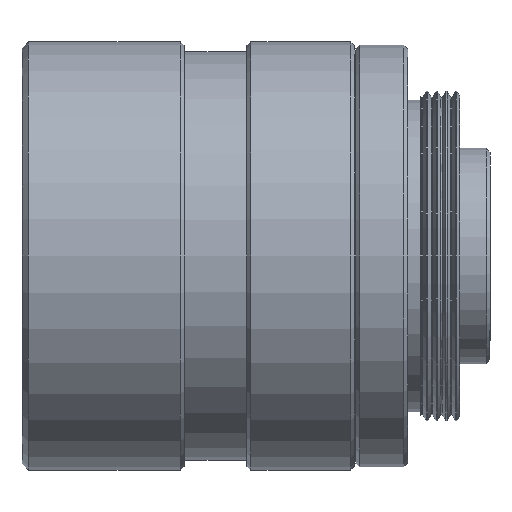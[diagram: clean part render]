
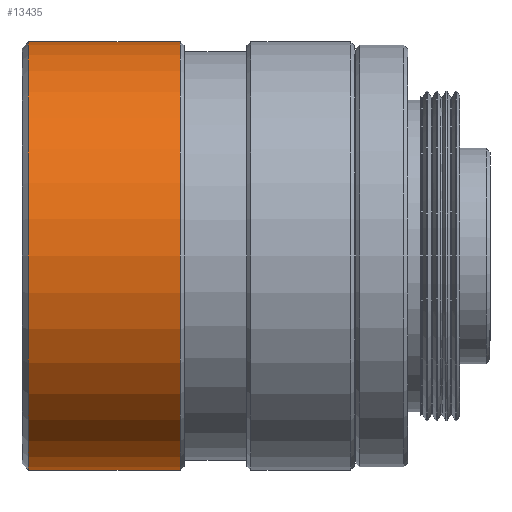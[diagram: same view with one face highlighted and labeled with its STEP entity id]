
A CAD part, left-side view. The second image highlights one B-rep face of the part: STEP entity #13435.
In plain terms, the highlighted cylindrical face has radius 16.5 mm (diameter 33 mm), a full revolution.
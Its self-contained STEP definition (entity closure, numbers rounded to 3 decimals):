
#2099=FACE_BOUND('',#3533,.T.);
#2756=FACE_OUTER_BOUND('',#3532,.T.);
#3532=EDGE_LOOP('',(#11531));
#3533=EDGE_LOOP('',(#11532));
#4491=CIRCLE('',#14654,16.5);
#4492=CIRCLE('',#14656,16.5);
#5726=VERTEX_POINT('',#61783);
#5727=VERTEX_POINT('',#61786);
#7687=EDGE_CURVE('',#5726,#5726,#4491,.T.);
#7688=EDGE_CURVE('',#5727,#5727,#4492,.T.);
#11531=ORIENTED_EDGE('',*,*,#7687,.T.);
#11532=ORIENTED_EDGE('',*,*,#7688,.F.);
#12094=CYLINDRICAL_SURFACE('',#14655,16.5);
#13435=ADVANCED_FACE('',(#2756,#2099),#12094,.T.);
#14654=AXIS2_PLACEMENT_3D('',#61784,#17354,#17355);
#14655=AXIS2_PLACEMENT_3D('',#61785,#17356,#17357);
#14656=AXIS2_PLACEMENT_3D('',#61787,#17358,#17359);
#17354=DIRECTION('center_axis',(0.,1.,0.));
#17355=DIRECTION('ref_axis',(0.,0.,
-1.));
#17356=DIRECTION('center_axis',(0.,1.,0.));
#17357=DIRECTION('ref_axis',(-1.,0.,0.));
#17358=DIRECTION('center_axis',(0.,1.,0.));
#17359=DIRECTION('ref_axis',(0.,0.,
-1.));
#61783=CARTESIAN_POINT('',(-16.5,20.588,0.));
#61784=CARTESIAN_POINT('Origin',(0.,20.588,0.));
#61785=CARTESIAN_POINT('Origin',(0.,26.438,0.));
#61786=CARTESIAN_POINT('',(-16.5,32.288,0.));
#61787=CARTESIAN_POINT('Origin',(0.,32.288,0.));
